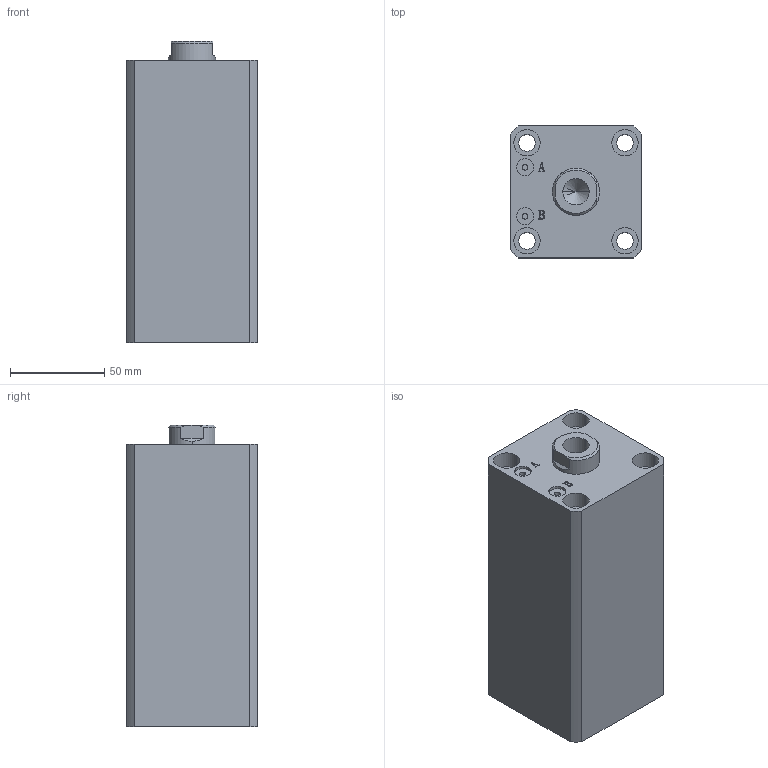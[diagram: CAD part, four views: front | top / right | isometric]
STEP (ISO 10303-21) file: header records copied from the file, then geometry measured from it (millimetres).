
FILE_DESCRIPTION (( 'STEP AP203' ), '1' );
FILE_NAME ('HTB-SDMA40-95N.STEP', '2019-10-07T11:58:45', ( '微软用户' ), ( '微软中国' ), 'SwSTEP 2.0', 'SolidWorks 2012', '' );
FILE_SCHEMA (( 'CONFIG_CONTROL_DESIGN' ));
Length unit declared in the file: millimetre
Products named in the file (3): HTB-SDMA40-95N; HTB-SDMA40-95N活塞杆; HTB-SDMA40-95掛极
Assembly tree (2 placements, depth 2):
  HTB-SDMA40-95N
    HTB-SDMA40-95掛极
    HTB-SDMA40-95N活塞杆
Bounding box: 70 x 70 x 160 mm (x, y, z)
Volume: 612549.7 mm3; surface area: 102138 mm2
Topology: 2 solids, 2 shells, 137 faces, 331 edges, 217 vertices
Faces by surface type: plane 65, cylinder 46, bspline 16, torus 6, cone 4
Entity records: 5074 total; most frequent: CARTESIAN_POINT 1580, ORIENTED_EDGE 658, DIRECTION 647, EDGE_CURVE 329, AXIS2_PLACEMENT_3D 232, VERTEX_POINT 217, LINE 183, VECTOR 183
